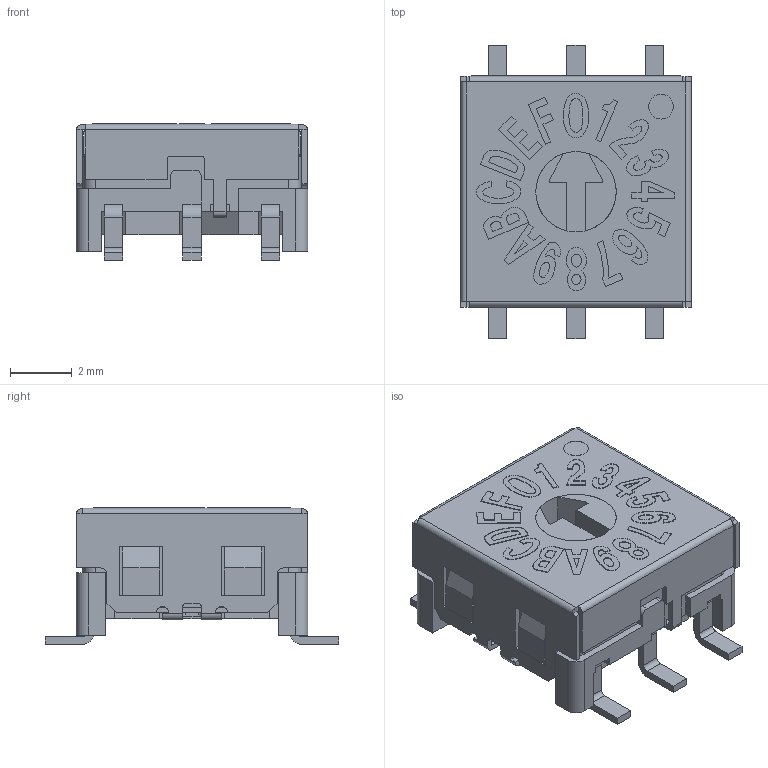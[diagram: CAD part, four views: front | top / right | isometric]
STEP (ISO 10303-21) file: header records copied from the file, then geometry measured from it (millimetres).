
FILE_DESCRIPTION( ( 'STEP AP214' ), ' ' );
FILE_NAME( 'p:/temp/worker_95/260_3400/app_44_12017062308370105757126260eae72_000000_00_00_000000/format_0/SMR7016C-1.stp', '2017-06-23T06:37:02', ( '' ), ( '' ), ' ', 'PARTsolutions', ' ' );
FILE_SCHEMA( ( 'AUTOMOTIVE_DESIGN { 1 0 10303 214 1 1 1 1 }' ) );
Length unit declared in the file: millimetre
Products named in the file (4): SMR7016C-1; _SMR-SMRR-(PCB-2)-body; _SMR-SMRR-Dial-Flush-Real code; _SMR-SMRR-Terminal-1
Assembly tree (8 placements, depth 2):
  SMR7016C-1
    _SMR-SMRR-(PCB-2)-body
    _SMR-SMRR-Dial-Flush-Real code
    _SMR-SMRR-Terminal-1  x6
Bounding box: 7.5 x 9.5 x 4.42 mm (x, y, z)
Volume: 183.2 mm3; surface area: 469.6 mm2
Topology: 8 solids, 8 shells, 838 faces, 2320 edges, 1526 vertices
Faces by surface type: plane 607, cylinder 231
Full cylindrical faces by diameter (mm): 0.3 x1, 0.8 x1, 2.6 x2
Entity records: 31103 total; most frequent: CARTESIAN_POINT 4375, ORIENTED_EDGE 4328, DIRECTION 4167, EDGE_CURVE 2164, LINE 1735, VECTOR 1735, VERTEX_POINT 1424, AXIS2_PLACEMENT_3D 1216
